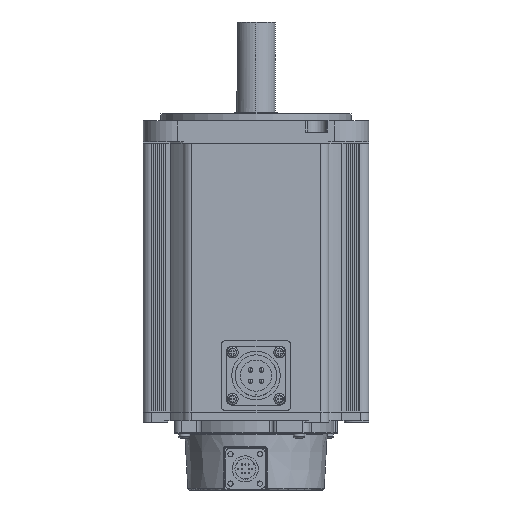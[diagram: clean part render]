
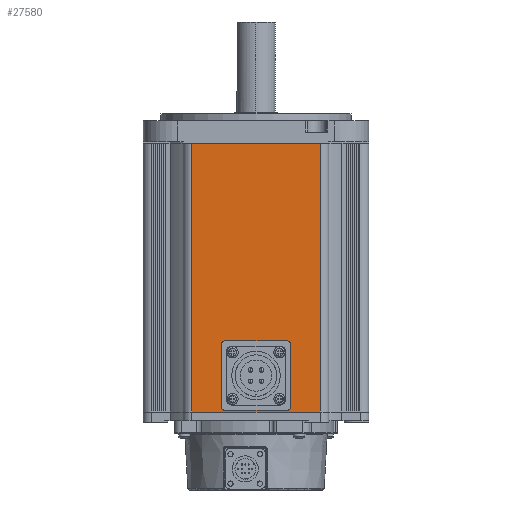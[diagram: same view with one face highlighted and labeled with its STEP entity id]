
A CAD part, front view. The second image highlights one B-rep face of the part: STEP entity #27580.
In plain terms, the highlighted planar face has unit normal (0, -1, 0) as drawn and (0, 1, 0) by its records, which use the part's own axes.
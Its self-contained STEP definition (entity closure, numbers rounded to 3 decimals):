
#1368 = EDGE_CURVE ( 'NONE', #15559, #11790, #29450, .T. ) ;
#2029 = FACE_OUTER_BOUND ( 'NONE', #28480, .T. ) ;
#2165 = ORIENTED_EDGE ( 'NONE', *, *, #1368, .T. ) ;
#2173 = FACE_BOUND ( 'NONE', #14469, .T. ) ;
#2863 = VECTOR ( 'NONE', #27400, 1000. ) ;
#3233 = CARTESIAN_POINT ( 'NONE',  ( 37., 65., 155. ) ) ;
#3604 = VERTEX_POINT ( 'NONE', #6727 ) ;
#4038 = DIRECTION ( 'NONE',  ( 0., 1., 0. ) ) ;
#4194 = CARTESIAN_POINT ( 'NONE',  ( -37., 65., 155. ) ) ;
#5021 = LINE ( 'NONE', #26712, #15887 ) ;
#5313 = ORIENTED_EDGE ( 'NONE', *, *, #15520, .F. ) ;
#5710 = AXIS2_PLACEMENT_3D ( 'NONE', #20929, #27791, #21074 ) ;
#6727 = CARTESIAN_POINT ( 'NONE',  ( 5., 65., 21. ) ) ;
#9130 = CARTESIAN_POINT ( 'NONE',  ( 37., 65., 0. ) ) ;
#9317 = CARTESIAN_POINT ( 'NONE',  ( 0., 65., 21. ) ) ;
#9911 = VECTOR ( 'NONE', #24631, 1000. ) ;
#10131 = ORIENTED_EDGE ( 'NONE', *, *, #13236, .F. ) ;
#10423 = CARTESIAN_POINT ( 'NONE',  ( -5., 65., 21. ) ) ;
#11681 = LINE ( 'NONE', #18866, #27299 ) ;
#11790 = VERTEX_POINT ( 'NONE', #9130 ) ;
#12333 = ORIENTED_EDGE ( 'NONE', *, *, #21083, .F. ) ;
#12454 = ORIENTED_EDGE ( 'NONE', *, *, #22859, .T. ) ;
#13236 = EDGE_CURVE ( 'NONE', #30842, #3604, #27225, .T. ) ;
#14264 = CIRCLE ( 'NONE', #22240, 5. ) ;
#14469 = EDGE_LOOP ( 'NONE', ( #10131, #5313 ) ) ;
#14661 = EDGE_CURVE ( 'NONE', #15559, #26000, #11681, .T. ) ;
#15520 = EDGE_CURVE ( 'NONE', #3604, #30842, #14264, .T. ) ;
#15559 = VERTEX_POINT ( 'NONE', #19252 ) ;
#15662 = VERTEX_POINT ( 'NONE', #18420 ) ;
#15887 = VECTOR ( 'NONE', #29506, 1000. ) ;
#18187 = LINE ( 'NONE', #27690, #2863 ) ;
#18420 = CARTESIAN_POINT ( 'NONE',  ( -37., 65., 0. ) ) ;
#18866 = CARTESIAN_POINT ( 'NONE',  ( -37., 65., 155. ) ) ;
#19252 = CARTESIAN_POINT ( 'NONE',  ( 37., 65., 155. ) ) ;
#20743 = DIRECTION ( 'NONE',  ( -1., 0., 0. ) ) ;
#20825 = CARTESIAN_POINT ( 'NONE',  ( 0., 65., 21. ) ) ;
#20929 = CARTESIAN_POINT ( 'NONE',  ( -37., 65., 155. ) ) ;
#21074 = DIRECTION ( 'NONE',  ( 1., 0., 0. ) ) ;
#21083 = EDGE_CURVE ( 'NONE', #26000, #15662, #18187, .T. ) ;
#22240 = AXIS2_PLACEMENT_3D ( 'NONE', #20825, #30169, #30324 ) ;
#22859 = EDGE_CURVE ( 'NONE', #11790, #15662, #5021, .T. ) ;
#23120 = PLANE ( 'NONE',  #5710 ) ;
#23237 = DIRECTION ( 'NONE',  ( -1., 0., 0. ) ) ;
#24631 = DIRECTION ( 'NONE',  ( 0., 0., -1. ) ) ;
#26000 = VERTEX_POINT ( 'NONE', #4194 ) ;
#26712 = CARTESIAN_POINT ( 'NONE',  ( -37., 65., 0. ) ) ;
#26911 = ORIENTED_EDGE ( 'NONE', *, *, #14661, .F. ) ;
#27225 = CIRCLE ( 'NONE', #29708, 5. ) ;
#27299 = VECTOR ( 'NONE', #23237, 1000. ) ;
#27400 = DIRECTION ( 'NONE',  ( 0., 0., -1. ) ) ;
#27580 = ADVANCED_FACE ( 'NONE', ( #2173, #2029 ), #23120, .F. ) ;
#27690 = CARTESIAN_POINT ( 'NONE',  ( -37., 65., 155. ) ) ;
#27791 = DIRECTION ( 'NONE',  ( 0., -1., 0. ) ) ;
#28480 = EDGE_LOOP ( 'NONE', ( #12454, #12333, #26911, #2165 ) ) ;
#29450 = LINE ( 'NONE', #3233, #9911 ) ;
#29506 = DIRECTION ( 'NONE',  ( -1., 0., 0. ) ) ;
#29708 = AXIS2_PLACEMENT_3D ( 'NONE', #9317, #4038, #20743 ) ;
#30169 = DIRECTION ( 'NONE',  ( 0., 1., 0. ) ) ;
#30324 = DIRECTION ( 'NONE',  ( -1., 0., 0. ) ) ;
#30842 = VERTEX_POINT ( 'NONE', #10423 ) ;
